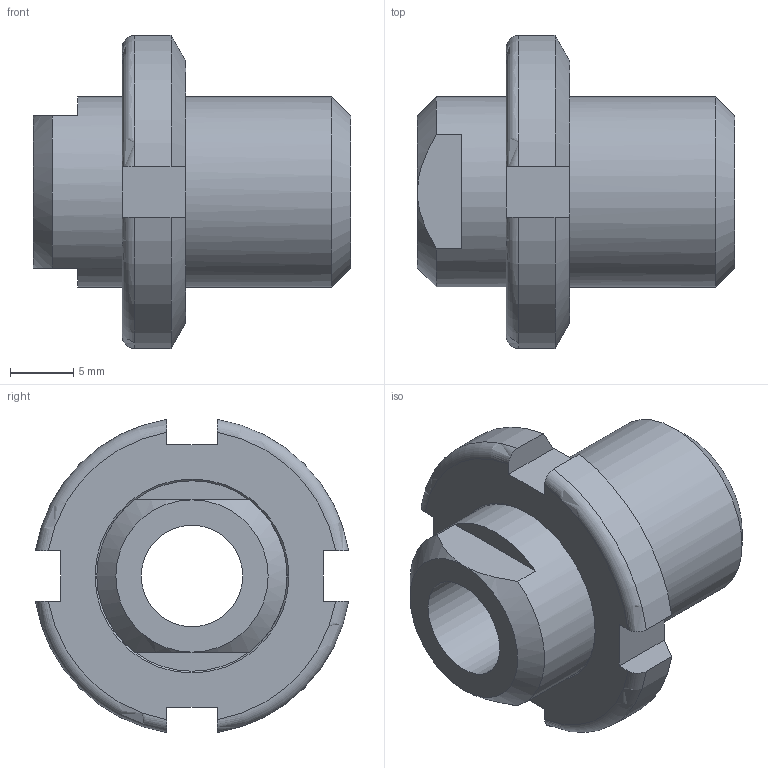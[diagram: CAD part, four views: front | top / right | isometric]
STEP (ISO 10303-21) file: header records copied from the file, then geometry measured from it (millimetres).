
FILE_DESCRIPTION(/* description */ ('Vite a esagono incassato'),/* implementation_level */ '2;1');
FILE_NAME(/* name */ 'C:\Local Work Area\Progetti\AP\CALIBRI\03 Portacomparatore\03.60.stp',/* time_stamp */ '2015-04-01T10:39:44+02:00',/* author */ ('CAD5'),/* organization */ (''),/* preprocessor_version */ 'ST-DEVELOPER v15.2',/* originating_system */ 'Autodesk Inventor 2014',/* authorisation */ '');
FILE_SCHEMA (('AUTOMOTIVE_DESIGN { 1 0 10303 214 3 1 1 }'));
Length unit declared in the file: millimetre
Products named in the file (3): 03.56; Ghiera SKF M15x1 KM_2; 03.60
Bounding box: 25 x 24.68 x 24.68 mm (x, y, z)
Volume: 4335.5 mm3; surface area: 3146 mm2
Topology: 2 solids, 2 shells, 40 faces, 104 edges, 68 vertices
Faces by surface type: plane 20, cone 9, cylinder 7, torus 4
Full cylindrical faces by diameter (mm): 8 x1, 15 x2
Entity records: 1287 total; most frequent: CARTESIAN_POINT 319, ORIENTED_EDGE 192, DIRECTION 188, EDGE_CURVE 96, AXIS2_PLACEMENT_3D 75, VERTEX_POINT 66, EDGE_LOOP 50, ADVANCED_FACE 40
